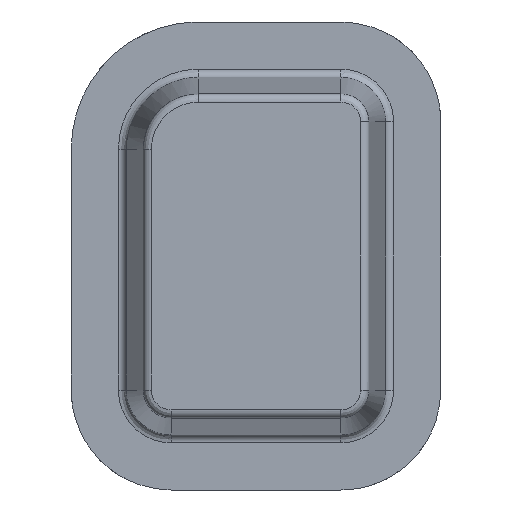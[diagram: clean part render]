
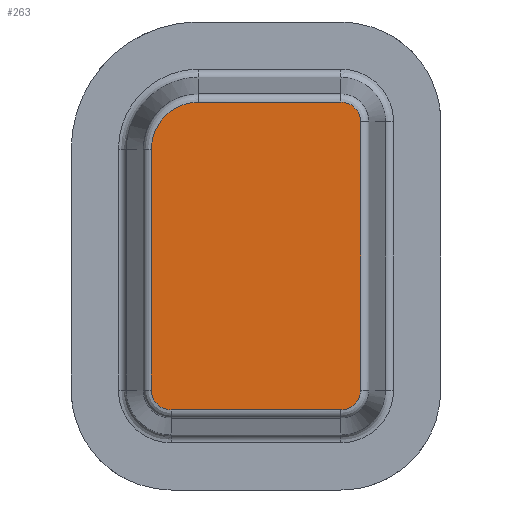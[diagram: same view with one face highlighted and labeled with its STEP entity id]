
A CAD part, front view. The second image highlights one B-rep face of the part: STEP entity #263.
In plain terms, the highlighted planar face has unit normal (0, -1, 0).
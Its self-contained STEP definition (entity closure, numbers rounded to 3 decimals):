
#144=CARTESIAN_POINT('Axis2P3D Location',(42.08,0.,57.92)) ;
#149=CARTESIAN_POINT('Line Origine',(2.749,0.,54.)) ;
#153=CARTESIAN_POINT('Vertex',(2.749,0.,98.)) ;
#155=CARTESIAN_POINT('Vertex',(2.749,0.,10.)) ;
#159=CARTESIAN_POINT('Control Point',(2.749,0.,10.)) ;
#160=CARTESIAN_POINT('Control Point',(2.749,0.,9.039)) ;
#161=CARTESIAN_POINT('Control Point',(2.908,0.,8.077)) ;
#162=CARTESIAN_POINT('Control Point',(3.227,0.,7.153)) ;
#163=CARTESIAN_POINT('Control Point',(4.157,0.,5.443)) ;
#164=CARTESIAN_POINT('Control Point',(5.588,0.,4.125)) ;
#165=CARTESIAN_POINT('Control Point',(6.407,0.,3.591)) ;
#166=CARTESIAN_POINT('Control Point',(7.616,0.,3.064)) ;
#167=CARTESIAN_POINT('Control Point',(8.898,0.,2.821)) ;
#168=CARTESIAN_POINT('Control Point',(9.236,0.,2.777)) ;
#169=CARTESIAN_POINT('Control Point',(9.593,0.,2.752)) ;
#170=CARTESIAN_POINT('Control Point',(9.951,0.,2.749)) ;
#171=CARTESIAN_POINT('Control Point',(9.967,0.,2.749)) ;
#172=CARTESIAN_POINT('Control Point',(9.984,0.,2.749)) ;
#173=CARTESIAN_POINT('Control Point',(10.,0.,2.749)) ;
#174=CARTESIAN_POINT('Vertex',(10.,0.,2.749)) ;
#177=CARTESIAN_POINT('Line Origine',(41.,0.,2.749)) ;
#181=CARTESIAN_POINT('Vertex',(72.,0.,2.749)) ;
#185=CARTESIAN_POINT('Control Point',(72.,0.,2.749)) ;
#186=CARTESIAN_POINT('Control Point',(72.961,0.,2.749)) ;
#187=CARTESIAN_POINT('Control Point',(73.923,0.,2.908)) ;
#188=CARTESIAN_POINT('Control Point',(74.847,0.,3.227)) ;
#189=CARTESIAN_POINT('Control Point',(76.557,0.,4.157)) ;
#190=CARTESIAN_POINT('Control Point',(77.875,0.,5.588)) ;
#191=CARTESIAN_POINT('Control Point',(78.409,0.,6.407)) ;
#192=CARTESIAN_POINT('Control Point',(78.936,0.,7.616)) ;
#193=CARTESIAN_POINT('Control Point',(79.179,0.,8.898)) ;
#194=CARTESIAN_POINT('Control Point',(79.223,0.,9.236)) ;
#195=CARTESIAN_POINT('Control Point',(79.248,0.,9.593)) ;
#196=CARTESIAN_POINT('Control Point',(79.251,0.,9.951)) ;
#197=CARTESIAN_POINT('Control Point',(79.251,0.,9.967)) ;
#198=CARTESIAN_POINT('Control Point',(79.251,0.,9.984)) ;
#199=CARTESIAN_POINT('Control Point',(79.251,0.,10.)) ;
#200=CARTESIAN_POINT('Vertex',(79.251,0.,10.)) ;
#203=CARTESIAN_POINT('Line Origine',(79.251,0.,59.)) ;
#207=CARTESIAN_POINT('Vertex',(79.251,0.,108.)) ;
#211=CARTESIAN_POINT('Control Point',(79.251,0.,108.)) ;
#212=CARTESIAN_POINT('Control Point',(79.251,0.,108.961)) ;
#213=CARTESIAN_POINT('Control Point',(79.092,0.,109.923)) ;
#214=CARTESIAN_POINT('Control Point',(78.773,0.,110.847)) ;
#215=CARTESIAN_POINT('Control Point',(77.843,0.,112.557)) ;
#216=CARTESIAN_POINT('Control Point',(76.412,0.,113.875)) ;
#217=CARTESIAN_POINT('Control Point',(75.593,0.,114.409)) ;
#218=CARTESIAN_POINT('Control Point',(74.384,0.,114.936)) ;
#219=CARTESIAN_POINT('Control Point',(73.102,0.,115.179)) ;
#220=CARTESIAN_POINT('Control Point',(72.764,0.,115.223)) ;
#221=CARTESIAN_POINT('Control Point',(72.407,0.,115.248)) ;
#222=CARTESIAN_POINT('Control Point',(72.049,0.,115.251)) ;
#223=CARTESIAN_POINT('Control Point',(72.033,0.,115.251)) ;
#224=CARTESIAN_POINT('Control Point',(72.016,0.,115.251)) ;
#225=CARTESIAN_POINT('Control Point',(72.,0.,115.251)) ;
#226=CARTESIAN_POINT('Vertex',(72.,0.,115.251)) ;
#229=CARTESIAN_POINT('Line Origine',(46.,0.,115.251)) ;
#233=CARTESIAN_POINT('Vertex',(20.,0.,115.251)) ;
#237=CARTESIAN_POINT('Control Point',(20.,0.,115.251)) ;
#238=CARTESIAN_POINT('Control Point',(18.077,0.,115.251)) ;
#239=CARTESIAN_POINT('Control Point',(16.154,0.,114.983)) ;
#240=CARTESIAN_POINT('Control Point',(14.282,0.,114.447)) ;
#241=CARTESIAN_POINT('Control Point',(10.736,0.,112.869)) ;
#242=CARTESIAN_POINT('Control Point',(7.758,0.,110.383)) ;
#243=CARTESIAN_POINT('Control Point',(6.451,0.,108.938)) ;
#244=CARTESIAN_POINT('Control Point',(4.493,0.,106.046)) ;
#245=CARTESIAN_POINT('Control Point',(3.313,0.,102.768)) ;
#246=CARTESIAN_POINT('Control Point',(2.954,0.,101.259)) ;
#247=CARTESIAN_POINT('Control Point',(2.762,0.,99.685)) ;
#248=CARTESIAN_POINT('Control Point',(2.749,0.,98.11)) ;
#249=CARTESIAN_POINT('Control Point',(2.749,0.,98.073)) ;
#250=CARTESIAN_POINT('Control Point',(2.749,0.,98.037)) ;
#251=CARTESIAN_POINT('Control Point',(2.749,0.,98.)) ;
#145=DIRECTION('Axis2P3D Direction',(0.,-1.,0.)) ;
#146=DIRECTION('Axis2P3D XDirection',(0.077,0.,0.997)) ;
#150=DIRECTION('Vector Direction',(0.,0.,1.)) ;
#178=DIRECTION('Vector Direction',(1.,0.,0.)) ;
#204=DIRECTION('Vector Direction',(0.,0.,1.)) ;
#230=DIRECTION('Vector Direction',(-1.,0.,0.)) ;
#147=AXIS2_PLACEMENT_3D('Plane Axis2P3D',#144,#145,#146) ;
#254=ORIENTED_EDGE('',*,*,#157,.T.) ;
#255=ORIENTED_EDGE('',*,*,#176,.T.) ;
#256=ORIENTED_EDGE('',*,*,#183,.T.) ;
#257=ORIENTED_EDGE('',*,*,#202,.T.) ;
#258=ORIENTED_EDGE('',*,*,#209,.T.) ;
#259=ORIENTED_EDGE('',*,*,#228,.T.) ;
#260=ORIENTED_EDGE('',*,*,#235,.T.) ;
#261=ORIENTED_EDGE('',*,*,#252,.T.) ;
#151=VECTOR('Line Direction',#150,1.) ;
#179=VECTOR('Line Direction',#178,1.) ;
#205=VECTOR('Line Direction',#204,1.) ;
#231=VECTOR('Line Direction',#230,1.) ;
#263=ADVANCED_FACE('base',(#262),#148,.T.) ;
#158=B_SPLINE_CURVE_WITH_KNOTS('',5,(#159,#160,#161,#162,#163,#164,#165,#166,#167,#168,#169,#170,#171,#172,#173),.UNSPECIFIED.,.F.,.U.,(6,3,3,3,6),(29.175,39.43,49.69,53.326,53.501),.UNSPECIFIED.) ;
#184=B_SPLINE_CURVE_WITH_KNOTS('',5,(#185,#186,#187,#188,#189,#190,#191,#192,#193,#194,#195,#196,#197,#198,#199),.UNSPECIFIED.,.F.,.U.,(6,3,3,3,6),(29.175,39.43,49.69,53.325,53.501),.UNSPECIFIED.) ;
#210=B_SPLINE_CURVE_WITH_KNOTS('',5,(#211,#212,#213,#214,#215,#216,#217,#218,#219,#220,#221,#222,#223,#224,#225),.UNSPECIFIED.,.F.,.U.,(6,3,3,3,6),(29.176,39.431,49.691,53.326,53.501),.UNSPECIFIED.) ;
#236=B_SPLINE_CURVE_WITH_KNOTS('',5,(#237,#238,#239,#240,#241,#242,#243,#244,#245,#246,#247,#248,#249,#250,#251),.UNSPECIFIED.,.F.,.U.,(6,3,3,3,6),(41.191,57.438,73.705,86.71,87.019),.UNSPECIFIED.) ;
#157=EDGE_CURVE('',#154,#156,#152,.F.) ;
#176=EDGE_CURVE('',#156,#175,#158,.T.) ;
#183=EDGE_CURVE('',#175,#182,#180,.T.) ;
#202=EDGE_CURVE('',#182,#201,#184,.T.) ;
#209=EDGE_CURVE('',#201,#208,#206,.T.) ;
#228=EDGE_CURVE('',#208,#227,#210,.T.) ;
#235=EDGE_CURVE('',#227,#234,#232,.T.) ;
#252=EDGE_CURVE('',#234,#154,#236,.T.) ;
#253=EDGE_LOOP('',(#254,#255,#256,#257,#258,#259,#260,#261)) ;
#262=FACE_OUTER_BOUND('',#253,.T.) ;
#152=LINE('Line',#149,#151) ;
#180=LINE('Line',#177,#179) ;
#206=LINE('Line',#203,#205) ;
#232=LINE('Line',#229,#231) ;
#148=PLANE('',#147) ;
#154=VERTEX_POINT('',#153) ;
#156=VERTEX_POINT('',#155) ;
#175=VERTEX_POINT('',#174) ;
#182=VERTEX_POINT('',#181) ;
#201=VERTEX_POINT('',#200) ;
#208=VERTEX_POINT('',#207) ;
#227=VERTEX_POINT('',#226) ;
#234=VERTEX_POINT('',#233) ;
